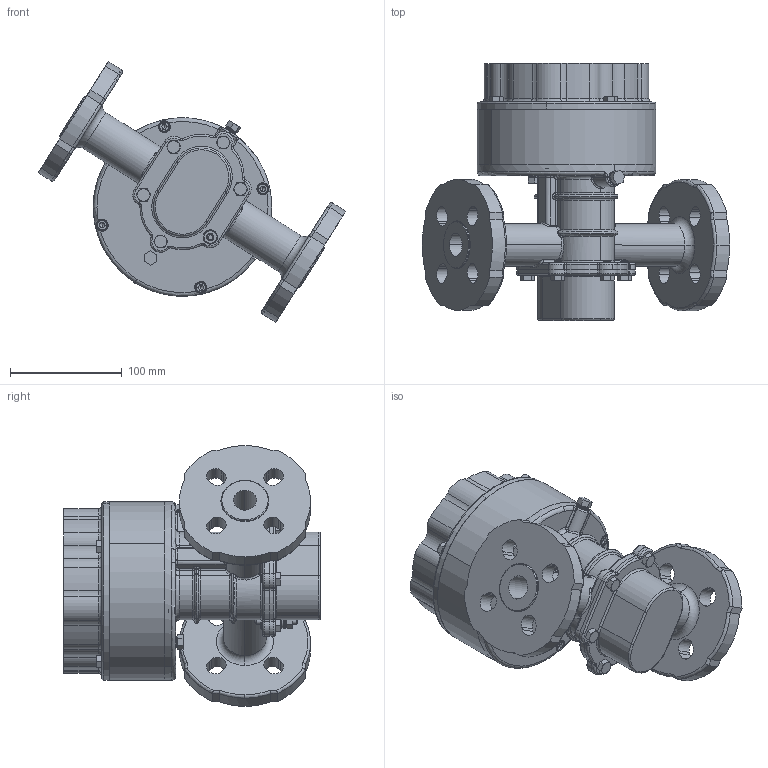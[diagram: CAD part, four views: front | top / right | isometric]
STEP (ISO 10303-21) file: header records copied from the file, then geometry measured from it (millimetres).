
FILE_DESCRIPTION (( 'STEP AP214' ), '1' );
FILE_NAME ('E25M FLNG IEC90 NO MTR.STEP', '2025-07-11T13:47:35', ( '' ), ( '' ), 'SwSTEP 2.0', 'SolidWorks 2024', '' );
FILE_SCHEMA (( 'AUTOMOTIVE_DESIGN' ));
Length unit declared in the file: inch
Products named in the file (13): flat washer type b narrow_ai_Narrow FW 0.25; socket head cap screw_ai_HX-SHCS 0.25-28x0.625x0.625-N; hex nut_ai_HNUT 0.2500-28-D-N; 49610; hex bolt_ai_HBOLT 0.2500-28x0.75x0.75-N; NG040059_MACHINE; 49728_MACHINED; external tooth lock washer_ai_ASME B18.21.1 - 0.256; W772565_4452K541; socket set screw cup point_ai_SSCUPSKT 0.25-28x1.5-HX-N; hex bolt_ai_HBOLT 0.2500-28x0.5x0.5-N; E25M FLNG IEC90 NO MTR; NG020017-B_MACHINE
Assembly tree (27 placements, depth 2):
  E25M FLNG IEC90 NO MTR
    NG040059_MACHINE
    49610
    hex bolt_ai_HBOLT 0.2500-28x0.75x0.75-N  x4
    socket head cap screw_ai_HX-SHCS 0.25-28x0.625x0.625-N  x5
    W772565_4452K541  x2
    socket set screw cup point_ai_SSCUPSKT 0.25-28x1.5-HX-N
    hex nut_ai_HNUT 0.2500-28-D-N  x2
    external tooth lock washer_ai_ASME B18.21.1 - 0.256  x2
    flat washer type b narrow_ai_Narrow FW 0.25  x2
    49728_MACHINED
    NG020017-B_MACHINE
    hex bolt_ai_HBOLT 0.2500-28x0.5x0.5-N  x5
Bounding box: 274.66 x 229.53 x 232.66 mm (x, y, z)
Volume: 1268378.7 mm3; surface area: 360216.8 mm2
Topology: 27 solids, 27 shells, 1625 faces, 4144 edges, 2558 vertices
Faces by surface type: cylinder 561, plane 400, torus 319, cone 253, bspline 50, sphere 42
Entity records: 45493 total; most frequent: CARTESIAN_POINT 14344, DIRECTION 6957, ORIENTED_EDGE 6276, EDGE_CURVE 3138, AXIS2_PLACEMENT_3D 2972, VERTEX_POINT 1937, CIRCLE 1737, EDGE_LOOP 1369
